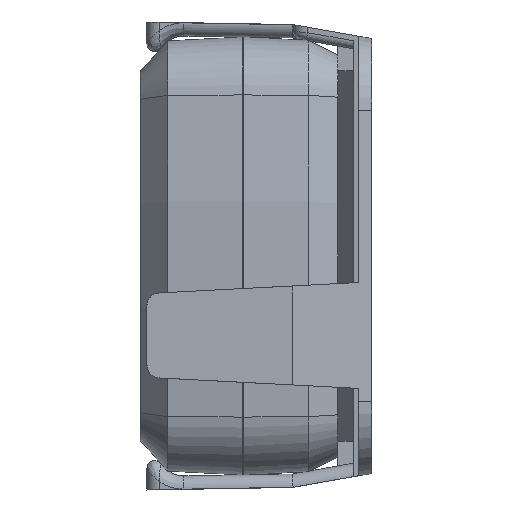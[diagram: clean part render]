
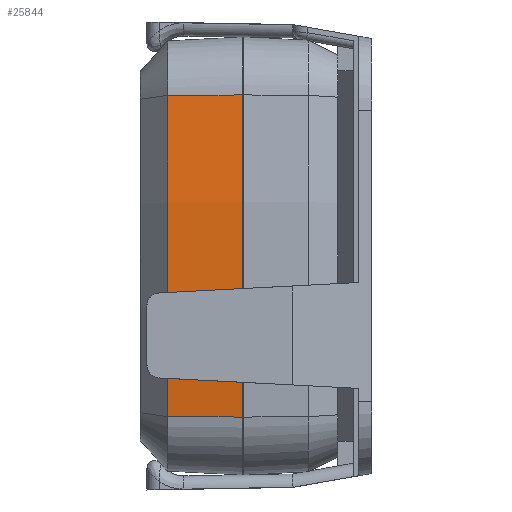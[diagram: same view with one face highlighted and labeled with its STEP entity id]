
A CAD part, left-side view. The second image highlights one B-rep face of the part: STEP entity #25844.
In plain terms, the highlighted conical face has half-angle 3 degrees and reference radius 246.01 mm.
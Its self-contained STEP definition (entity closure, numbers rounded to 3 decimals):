
#1444 = VERTEX_POINT ( 'NONE', #14269 ) ;
#3481 = CARTESIAN_POINT ( 'NONE',  ( 188.81, 0., 0. ) ) ;
#7827 = VECTOR ( 'NONE', #11910, 1000. ) ;
#8316 = AXIS2_PLACEMENT_3D ( 'NONE', #3481, #27369, #12069 ) ;
#10211 = DIRECTION ( 'NONE',  ( 0., -1., 0. ) ) ;
#11910 = DIRECTION ( 'NONE',  ( 0.052, 0.999, -0.006 ) ) ;
#12069 = DIRECTION ( 'NONE',  ( 0., 0., 1. ) ) ;
#14269 = CARTESIAN_POINT ( 'NONE',  ( -54.58, 14.107, -30.319 ) ) ;
#14277 = EDGE_CURVE ( 'NONE', #1444, #22910, #24857, .T. ) ;
#14503 = CARTESIAN_POINT ( 'NONE',  ( -55.313, 0., -30.41 ) ) ;
#17148 = EDGE_CURVE ( 'NONE', #20982, #34354, #23587, .T. ) ;
#17306 = AXIS2_PLACEMENT_3D ( 'NONE', #38222, #19013, #27303 ) ;
#18424 = AXIS2_PLACEMENT_3D ( 'NONE', #21887, #10211, #26048 ) ;
#19013 = DIRECTION ( 'NONE',  ( 0., -1., 0. ) ) ;
#20982 = VERTEX_POINT ( 'NONE', #37614 ) ;
#21887 = CARTESIAN_POINT ( 'NONE',  ( 188.81, 0., 0. ) ) ;
#22910 = VERTEX_POINT ( 'NONE', #14503 ) ;
#22920 = EDGE_LOOP ( 'NONE', ( #25048, #24928, #50247, #51158 ) ) ;
#23587 = LINE ( 'NONE', #27202, #7827 ) ;
#24124 = VECTOR ( 'NONE', #24604, 1000. ) ;
#24604 = DIRECTION ( 'NONE',  ( -0.052, -0.999, -0.006 ) ) ;
#24857 = LINE ( 'NONE', #40948, #24124 ) ;
#24928 = ORIENTED_EDGE ( 'NONE', *, *, #35167, .T. ) ;
#25048 = ORIENTED_EDGE ( 'NONE', *, *, #17148, .T. ) ;
#25588 = CARTESIAN_POINT ( 'NONE',  ( -54.58, 14.107, 30.319 ) ) ;
#25844 = ADVANCED_FACE ( 'NONE', ( #49941 ), #50792, .T. ) ;
#26048 = DIRECTION ( 'NONE',  ( 0., 0., 1. ) ) ;
#27202 = CARTESIAN_POINT ( 'NONE',  ( -55.313, 0., 30.41 ) ) ;
#27303 = DIRECTION ( 'NONE',  ( 0., 0., -1. ) ) ;
#27369 = DIRECTION ( 'NONE',  ( 0., 1., 0. ) ) ;
#28896 = CIRCLE ( 'NONE', #17306, 245.271 ) ;
#34354 = VERTEX_POINT ( 'NONE', #25588 ) ;
#35167 = EDGE_CURVE ( 'NONE', #34354, #1444, #28896, .T. ) ;
#37614 = CARTESIAN_POINT ( 'NONE',  ( -55.313, 0., 30.41 ) ) ;
#38222 = CARTESIAN_POINT ( 'NONE',  ( 188.81, 14.107, 0. ) ) ;
#40948 = CARTESIAN_POINT ( 'NONE',  ( -55.313, 0., -30.41 ) ) ;
#46979 = EDGE_CURVE ( 'NONE', #22910, #20982, #50608, .T. ) ;
#49941 = FACE_OUTER_BOUND ( 'NONE', #22920, .T. ) ;
#50247 = ORIENTED_EDGE ( 'NONE', *, *, #14277, .T. ) ;
#50608 = CIRCLE ( 'NONE', #8316, 246.01 ) ;
#50792 = CONICAL_SURFACE ( 'NONE', #18424, 246.01, 0.052 ) ;
#51158 = ORIENTED_EDGE ( 'NONE', *, *, #46979, .T. ) ;
